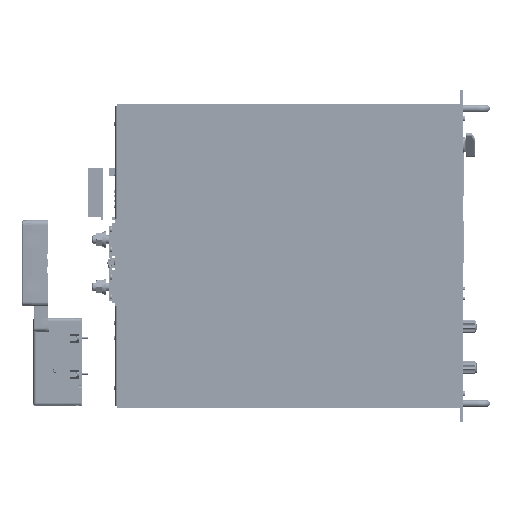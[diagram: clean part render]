
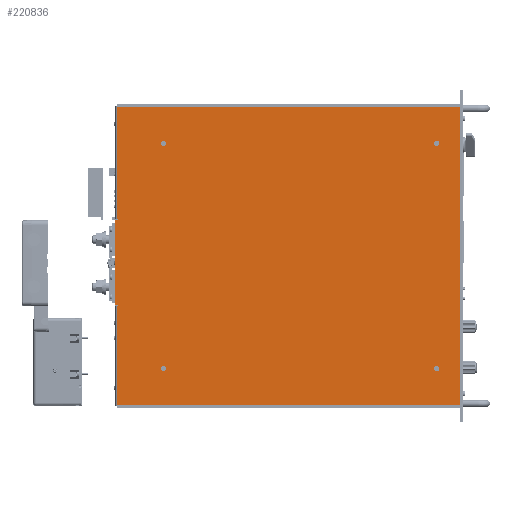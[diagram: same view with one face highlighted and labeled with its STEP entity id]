
A CAD part, front view. The second image highlights one B-rep face of the part: STEP entity #220836.
In plain terms, the highlighted planar face has unit normal (0, -1, 0).
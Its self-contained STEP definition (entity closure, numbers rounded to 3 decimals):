
#4851=FACE_BOUND($,#35917,.T.);
#4852=FACE_BOUND($,#35918,.T.);
#4853=FACE_BOUND($,#35919,.T.);
#4854=FACE_BOUND($,#35920,.T.);
#15197=CIRCLE($,#234473,3.85);
#15198=CIRCLE($,#234474,3.85);
#15199=CIRCLE($,#234475,3.85);
#15200=CIRCLE($,#234476,3.85);
#23202=FACE_OUTER_BOUND($,#35916,.T.);
#35916=EDGE_LOOP($,(#163039,#163040,#163041,#163042,#163043,#163044,#163045,
#163046,#163047,#163048,#163049,#163050));
#35917=EDGE_LOOP($,(#163051));
#35918=EDGE_LOOP($,(#163052));
#35919=EDGE_LOOP($,(#163053));
#35920=EDGE_LOOP($,(#163054));
#53609=LINE($,#340535,#73279);
#53622=LINE($,#340561,#73292);
#53630=LINE($,#340578,#73300);
#53632=LINE($,#340582,#73302);
#53633=LINE($,#340584,#73303);
#53634=LINE($,#340585,#73304);
#53635=LINE($,#340587,#73305);
#53636=LINE($,#340589,#73306);
#53637=LINE($,#340591,#73307);
#53638=LINE($,#340593,#73308);
#53639=LINE($,#340595,#73309);
#53640=LINE($,#340596,#73310);
#73279=VECTOR($,#264822,164.7);
#73292=VECTOR($,#264849,146.);
#73300=VECTOR($,#264867,0.5);
#73302=VECTOR($,#264871,500.5);
#73303=VECTOR($,#264872,438.);
#73304=VECTOR($,#264873,500.5);
#73305=VECTOR($,#264874,0.5);
#73306=VECTOR($,#264875,2.3);
#73307=VECTOR($,#264876,3.5);
#73308=VECTOR($,#264877,122.7);
#73309=VECTOR($,#264878,3.5);
#73310=VECTOR($,#264879,2.3);
#86916=VERTEX_POINT($,#311632);
#92702=VERTEX_POINT($,#332765);
#94794=VERTEX_POINT($,#340520);
#94799=VERTEX_POINT($,#340534);
#94809=VERTEX_POINT($,#340577);
#94810=VERTEX_POINT($,#340581);
#94811=VERTEX_POINT($,#340583);
#94812=VERTEX_POINT($,#340586);
#94813=VERTEX_POINT($,#340588);
#94814=VERTEX_POINT($,#340590);
#94815=VERTEX_POINT($,#340592);
#94816=VERTEX_POINT($,#340594);
#94817=VERTEX_POINT($,#340597);
#94818=VERTEX_POINT($,#340599);
#94819=VERTEX_POINT($,#340601);
#94820=VERTEX_POINT($,#340603);
#119760=EDGE_CURVE($,#94799,#92702,#53609,.T.);
#119774=EDGE_CURVE($,#86916,#94794,#53622,.T.);
#119782=EDGE_CURVE($,#94809,#86916,#53630,.T.);
#119784=EDGE_CURVE($,#94794,#94810,#53632,.T.);
#119785=EDGE_CURVE($,#94810,#94811,#53633,.T.);
#119786=EDGE_CURVE($,#94811,#94799,#53634,.T.);
#119787=EDGE_CURVE($,#92702,#94812,#53635,.T.);
#119788=EDGE_CURVE($,#94812,#94813,#53636,.T.);
#119789=EDGE_CURVE($,#94813,#94814,#53637,.T.);
#119790=EDGE_CURVE($,#94814,#94815,#53638,.T.);
#119791=EDGE_CURVE($,#94815,#94816,#53639,.T.);
#119792=EDGE_CURVE($,#94816,#94809,#53640,.T.);
#119793=EDGE_CURVE($,#94817,#94817,#15197,.T.);
#119794=EDGE_CURVE($,#94818,#94818,#15198,.T.);
#119795=EDGE_CURVE($,#94819,#94819,#15199,.T.);
#119796=EDGE_CURVE($,#94820,#94820,#15200,.T.);
#163039=ORIENTED_EDGE($,*,*,#119774,.T.);
#163040=ORIENTED_EDGE($,*,*,#119784,.T.);
#163041=ORIENTED_EDGE($,*,*,#119785,.T.);
#163042=ORIENTED_EDGE($,*,*,#119786,.T.);
#163043=ORIENTED_EDGE($,*,*,#119760,.T.);
#163044=ORIENTED_EDGE($,*,*,#119787,.T.);
#163045=ORIENTED_EDGE($,*,*,#119788,.T.);
#163046=ORIENTED_EDGE($,*,*,#119789,.T.);
#163047=ORIENTED_EDGE($,*,*,#119790,.T.);
#163048=ORIENTED_EDGE($,*,*,#119791,.T.);
#163049=ORIENTED_EDGE($,*,*,#119792,.T.);
#163050=ORIENTED_EDGE($,*,*,#119782,.T.);
#163051=ORIENTED_EDGE($,*,*,#119793,.T.);
#163052=ORIENTED_EDGE($,*,*,#119794,.T.);
#163053=ORIENTED_EDGE($,*,*,#119795,.T.);
#163054=ORIENTED_EDGE($,*,*,#119796,.T.);
#199751=PLANE($,#234472);
#220836=ADVANCED_FACE($,(#23202,#4851,#4852,#4853,#4854),#199751,.F.);
#234472=AXIS2_PLACEMENT_3D($,#340580,#264869,#264870);
#234473=AXIS2_PLACEMENT_3D($,#340598,#264880,#264881);
#234474=AXIS2_PLACEMENT_3D($,#340600,#264882,#264883);
#234475=AXIS2_PLACEMENT_3D($,#340602,#264884,#264885);
#234476=AXIS2_PLACEMENT_3D($,#340604,#264886,#264887);
#264822=DIRECTION($,(0.,0.,-1.));
#264849=DIRECTION($,(0.,0.,-1.));
#264867=DIRECTION($,(-1.,0.,0.));
#264869=DIRECTION('center_axis',(0.,1.,0.));
#264870=DIRECTION('ref_axis',(0.,0.,-1.));
#264871=DIRECTION($,(1.,0.,0.));
#264872=DIRECTION($,(0.,0.,1.));
#264873=DIRECTION($,(-1.,0.,0.));
#264874=DIRECTION($,(1.,0.,0.));
#264875=DIRECTION($,(0.,0.,-1.));
#264876=DIRECTION($,(-1.,0.,0.));
#264877=DIRECTION($,(0.,0.,-1.));
#264878=DIRECTION($,(1.,0.,0.));
#264879=DIRECTION($,(0.,0.,-1.));
#264880=DIRECTION('center_axis',(0.,1.,0.));
#264881=DIRECTION('ref_axis',(0.,0.,
1.));
#264882=DIRECTION('center_axis',(0.,1.,0.));
#264883=DIRECTION('ref_axis',(0.,0.,
1.));
#264884=DIRECTION('center_axis',(0.,1.,0.));
#264885=DIRECTION('ref_axis',(0.,0.,
1.));
#264886=DIRECTION('center_axis',(0.,1.,0.));
#264887=DIRECTION('ref_axis',(0.,0.,
1.));
#311632=CARTESIAN_POINT('',(-503.,2.,-73.));
#332765=CARTESIAN_POINT('',(-503.,2.,54.3));
#340520=CARTESIAN_POINT('',(-503.,2.,-219.));
#340534=CARTESIAN_POINT('',(-503.,2.,219.));
#340535=CARTESIAN_POINT($,(-503.,2.,109.5));
#340561=CARTESIAN_POINT($,(-503.,2.,-36.5));
#340577=CARTESIAN_POINT('',(-502.5,2.,-73.));
#340578=CARTESIAN_POINT($,(-378.375,2.,-73.));
#340580=CARTESIAN_POINT('Origin',(-254.25,2.,0.));
#340581=CARTESIAN_POINT('',(-2.5,2.,-219.));
#340582=CARTESIAN_POINT($,(-506.,2.,-219.));
#340583=CARTESIAN_POINT('',(-2.5,2.,219.));
#340584=CARTESIAN_POINT($,(-2.5,2.,-219.));
#340585=CARTESIAN_POINT($,(-2.5,2.,219.));
#340586=CARTESIAN_POINT('',(-502.5,2.,54.3));
#340587=CARTESIAN_POINT($,(-380.125,2.,54.3));
#340588=CARTESIAN_POINT('',(-502.5,2.,52.));
#340589=CARTESIAN_POINT($,(-502.5,2.,27.15));
#340590=CARTESIAN_POINT('',(-506.,2.,52.));
#340591=CARTESIAN_POINT($,(-378.375,2.,52.));
#340592=CARTESIAN_POINT('',(-506.,2.,-70.7));
#340593=CARTESIAN_POINT($,(-506.,2.,219.));
#340594=CARTESIAN_POINT('',(-502.5,2.,-70.7));
#340595=CARTESIAN_POINT($,(-380.125,2.,-70.7));
#340596=CARTESIAN_POINT($,(-502.5,2.,-35.35));
#340597=CARTESIAN_POINT('',(-436.,2.,160.15));
#340598=CARTESIAN_POINT('Origin',(-436.,2.,164.));
#340599=CARTESIAN_POINT('',(-436.,2.,-167.85));
#340600=CARTESIAN_POINT('Origin',(-436.,2.,-164.));
#340601=CARTESIAN_POINT('',(-37.5,2.,-167.85));
#340602=CARTESIAN_POINT('Origin',(-37.5,2.,-164.));
#340603=CARTESIAN_POINT('',(-37.5,2.,160.15));
#340604=CARTESIAN_POINT('Origin',(-37.5,2.,164.));
